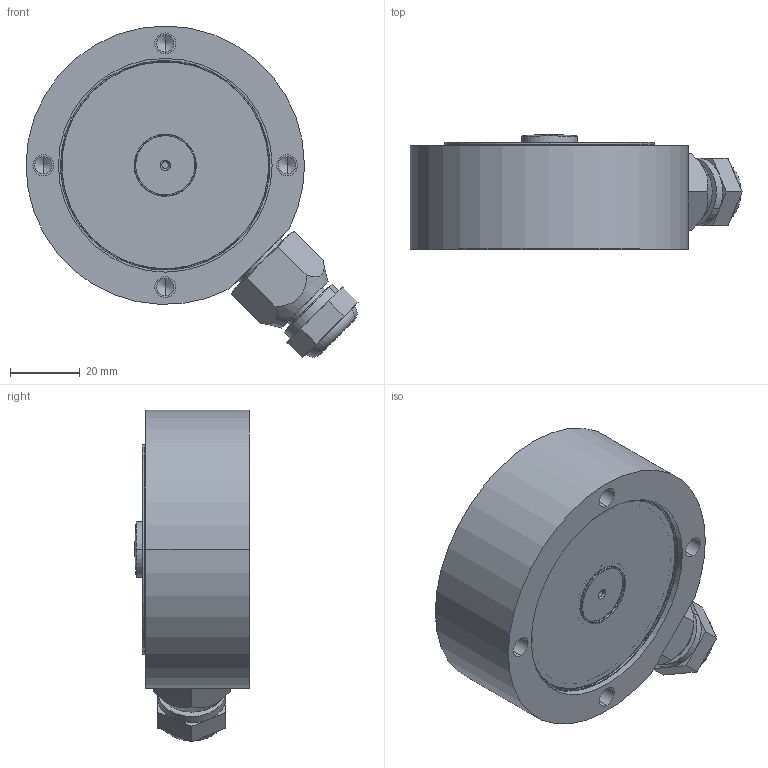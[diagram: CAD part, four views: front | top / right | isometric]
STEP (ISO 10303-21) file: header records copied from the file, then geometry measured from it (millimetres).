
FILE_DESCRIPTION (( 'STEP AP203' ), '1' );
FILE_NAME ('Load Sensor_HI HP50-SS-1.1KLB-11KLB.STEP', '2013-09-27T16:41:23', ( 'Jim' ), ( 'Hewlett-Packard Company' ), 'SwSTEP 2.0', 'SolidWorks 2013', '' );
FILE_SCHEMA (( 'CONFIG_CONTROL_DESIGN' ));
Length unit declared in the file: millimetre
Products named in the file (7): 1.1KLB-11KLB - Cable Nut; 1.1KLB-11KLB - Weld Base; Load Sensor_HI HP50-SS-1.1KLB-11KLB; 1.1KLB-11KLB - Grommet; 1.1KLB-11KLB - Element; 1.1KLB-11KLB - Diaphram; 1.1KLB-11KLB - Cable adaptor
Assembly tree (7 placements, depth 2):
  Load Sensor_HI HP50-SS-1.1KLB-11KLB
    1.1KLB-11KLB - Element
    1.1KLB-11KLB - Diaphram  x2
    1.1KLB-11KLB - Cable adaptor
    1.1KLB-11KLB - Weld Base
    1.1KLB-11KLB - Grommet
    1.1KLB-11KLB - Cable Nut
Bounding box: 95.37 x 32.92 x 95.37 mm (x, y, z)
Volume: 119412.6 mm3; surface area: 41072.7 mm2
Topology: 7 solids, 7 shells, 202 faces, 435 edges, 268 vertices
Faces by surface type: cylinder 92, plane 60, cone 24, torus 24, sphere 2
Entity records: 5928 total; most frequent: CARTESIAN_POINT 1046, DIRECTION 967, ORIENTED_EDGE 774, AXIS2_PLACEMENT_3D 411, EDGE_CURVE 387, VERTEX_POINT 244, EDGE_LOOP 221, CIRCLE 219
